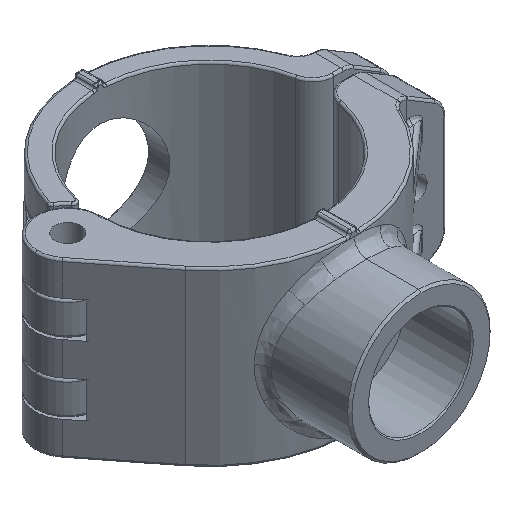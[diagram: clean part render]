
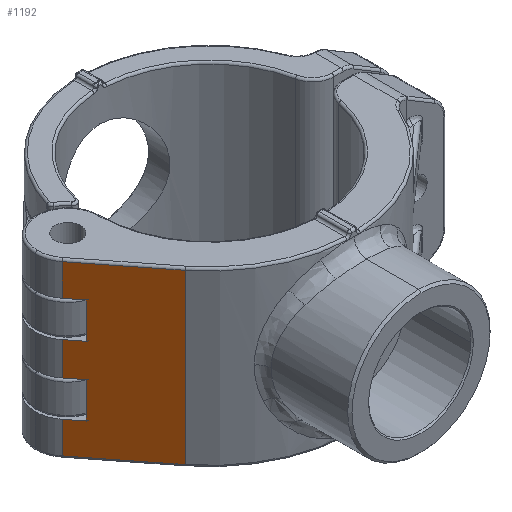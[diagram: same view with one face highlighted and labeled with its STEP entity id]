
A CAD part, isometric view. The second image highlights one B-rep face of the part: STEP entity #1192.
In plain terms, the highlighted planar face has unit normal (-0.787, -0.617, 0).
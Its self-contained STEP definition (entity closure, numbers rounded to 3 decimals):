
#200=PLANE('',#7996);
#463=LINE('',#12970,#677);
#495=LINE('',#13502,#709);
#496=LINE('',#13504,#710);
#497=LINE('',#13506,#711);
#498=LINE('',#13508,#712);
#499=LINE('',#13510,#713);
#500=LINE('',#13512,#714);
#501=LINE('',#13514,#715);
#502=LINE('',#13516,#716);
#503=LINE('',#13518,#717);
#504=LINE('',#13520,#718);
#505=LINE('',#13522,#719);
#677=VECTOR('',#9306,1.);
#709=VECTOR('',#9510,1.);
#710=VECTOR('',#9513,1.);
#711=VECTOR('',#9514,1.);
#712=VECTOR('',#9515,1.);
#713=VECTOR('',#9516,1.);
#714=VECTOR('',#9517,1.);
#715=VECTOR('',#9518,1.);
#716=VECTOR('',#9519,1.);
#717=VECTOR('',#9520,1.);
#718=VECTOR('',#9521,1.);
#719=VECTOR('',#9522,1.);
#1192=ADVANCED_FACE('',(#1671),#200,.F.);
#1671=FACE_OUTER_BOUND('',#2072,.T.);
#2072=EDGE_LOOP('',(#4072,#4073,#4074,#4075,#4076,#4077,#4078,#4079,#4080,
#4081,#4082,#4083));
#4072=ORIENTED_EDGE('',*,*,#6575,.F.);
#4073=ORIENTED_EDGE('',*,*,#6576,.F.);
#4074=ORIENTED_EDGE('',*,*,#6577,.F.);
#4075=ORIENTED_EDGE('',*,*,#6578,.F.);
#4076=ORIENTED_EDGE('',*,*,#6579,.F.);
#4077=ORIENTED_EDGE('',*,*,#6580,.F.);
#4078=ORIENTED_EDGE('',*,*,#6581,.F.);
#4079=ORIENTED_EDGE('',*,*,#6582,.F.);
#4080=ORIENTED_EDGE('',*,*,#6583,.F.);
#4081=ORIENTED_EDGE('',*,*,#6584,.F.);
#4082=ORIENTED_EDGE('',*,*,#6585,.F.);
#4083=ORIENTED_EDGE('',*,*,#6439,.F.);
#5462=VERTEX_POINT('',#12969);
#5463=VERTEX_POINT('',#12971);
#5562=VERTEX_POINT('',#13501);
#5563=VERTEX_POINT('',#13505);
#5564=VERTEX_POINT('',#13507);
#5565=VERTEX_POINT('',#13509);
#5566=VERTEX_POINT('',#13511);
#5567=VERTEX_POINT('',#13513);
#5568=VERTEX_POINT('',#13515);
#5569=VERTEX_POINT('',#13517);
#5570=VERTEX_POINT('',#13519);
#5571=VERTEX_POINT('',#13521);
#6439=EDGE_CURVE('',#5462,#5463,#463,.T.);
#6575=EDGE_CURVE('',#5562,#5462,#495,.T.);
#6576=EDGE_CURVE('',#5563,#5562,#496,.T.);
#6577=EDGE_CURVE('',#5564,#5563,#497,.T.);
#6578=EDGE_CURVE('',#5565,#5564,#498,.T.);
#6579=EDGE_CURVE('',#5566,#5565,#499,.T.);
#6580=EDGE_CURVE('',#5567,#5566,#500,.T.);
#6581=EDGE_CURVE('',#5568,#5567,#501,.T.);
#6582=EDGE_CURVE('',#5569,#5568,#502,.T.);
#6583=EDGE_CURVE('',#5570,#5569,#503,.T.);
#6584=EDGE_CURVE('',#5571,#5570,#504,.T.);
#6585=EDGE_CURVE('',#5463,#5571,#505,.T.);
#7996=AXIS2_PLACEMENT_3D('',#13523,#9523,#9524);
#9306=DIRECTION('',(0.,0.,-1.));
#9510=DIRECTION('',(0.617,-0.787,0.));
#9513=DIRECTION('',(0.,0.,1.));
#9514=DIRECTION('',(-0.617,0.787,0.));
#9515=DIRECTION('',(0.,0.,1.));
#9516=DIRECTION('',(0.617,-0.787,0.));
#9517=DIRECTION('',(0.,0.,1.));
#9518=DIRECTION('',(-0.617,0.787,0.));
#9519=DIRECTION('',(0.,0.,1.));
#9520=DIRECTION('',(0.617,-0.787,0.));
#9521=DIRECTION('',(0.,0.,1.));
#9522=DIRECTION('',(-0.617,0.787,0.));
#9523=DIRECTION('',(0.787,0.617,0.));
#9524=DIRECTION('',(0.617,-0.787,0.));
#12969=CARTESIAN_POINT('',(-26.294,-20.596,19.5));
#12970=CARTESIAN_POINT('',(-26.294,-20.596,19.5));
#12971=CARTESIAN_POINT('',(-26.294,-20.596,-19.5));
#13501=CARTESIAN_POINT('',(-38.804,-4.625,19.5));
#13502=CARTESIAN_POINT('',(-38.804,-4.625,19.5));
#13504=CARTESIAN_POINT('',(-38.804,-4.625,12.15));
#13505=CARTESIAN_POINT('',(-38.804,-4.625,12.15));
#13506=CARTESIAN_POINT('',(-36.338,-7.774,12.15));
#13507=CARTESIAN_POINT('',(-36.338,-7.774,12.15));
#13508=CARTESIAN_POINT('',(-36.338,-7.774,3.85));
#13509=CARTESIAN_POINT('',(-36.338,-7.774,3.85));
#13510=CARTESIAN_POINT('',(-38.804,-4.625,3.85));
#13511=CARTESIAN_POINT('',(-38.804,-4.625,3.85));
#13512=CARTESIAN_POINT('',(-38.804,-4.625,-3.85));
#13513=CARTESIAN_POINT('',(-38.804,-4.625,-3.85));
#13514=CARTESIAN_POINT('',(-36.338,-7.774,-3.85));
#13515=CARTESIAN_POINT('',(-36.338,-7.774,-3.85));
#13516=CARTESIAN_POINT('',(-36.338,-7.774,-12.15));
#13517=CARTESIAN_POINT('',(-36.338,-7.774,-12.15));
#13518=CARTESIAN_POINT('',(-38.804,-4.625,-12.15));
#13519=CARTESIAN_POINT('',(-38.804,-4.625,-12.15));
#13520=CARTESIAN_POINT('',(-38.804,-4.625,-19.5));
#13521=CARTESIAN_POINT('',(-38.804,-4.625,-19.5));
#13522=CARTESIAN_POINT('',(-26.294,-20.596,-19.5));
#13523=CARTESIAN_POINT('',(-26.294,-20.596,-20.));
